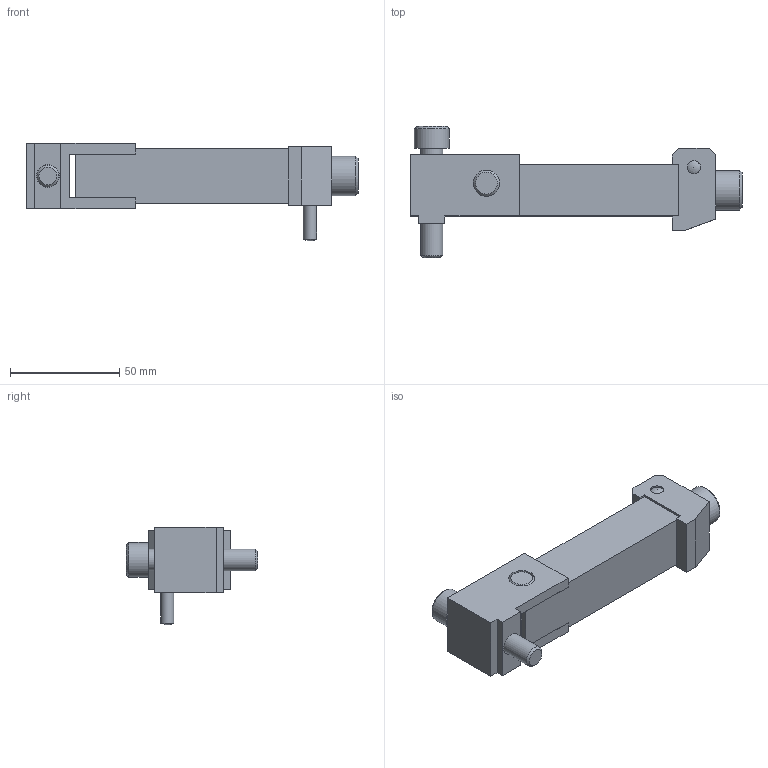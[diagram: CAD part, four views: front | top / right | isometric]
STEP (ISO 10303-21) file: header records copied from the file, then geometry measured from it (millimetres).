
FILE_DESCRIPTION( ( 'STEP AP214' ), '1' );
FILE_NAME( 'p:/temp/worker_207/temp/exporttempdir_3128_297_o9He0/format_0/ZH901.stp', '2021-02-09T19:27:21', ( 'License CC BY-ND 4.0' ), ( 'CADENAS' ), ' ', 'PARTsolutions', ' ' );
FILE_SCHEMA( ( 'AUTOMOTIVE_DESIGN { 1 0 10303 214 1 1 1 1 }' ) );
Length unit declared in the file: millimetre
Products named in the file (9): ZH901; _ZH90/1_head; _ZH90/1_screw1; _ZH90/1_hand; _ZH90/1_screw2; _ZH90/1_he; _ZH90/1_screw3; _ZH90/1_stift1; _ZH90/1_stift2
Assembly tree (8 placements, depth 2):
  ZH901
    _ZH90/1_head
    _ZH90/1_screw1
    _ZH90/1_hand
    _ZH90/1_screw2
    _ZH90/1_he
    _ZH90/1_screw3
    _ZH90/1_stift1
    _ZH90/1_stift2
Bounding box: 152 x 60 x 44.7 mm (x, y, z)
Volume: 102972.8 mm3; surface area: 34925 mm2
Topology: 8 solids, 8 shells, 96 faces, 223 edges, 146 vertices
Faces by surface type: plane 68, cylinder 15, cone 11, sphere 2
Full cylindrical faces by diameter (mm): 4.134 x1, 5 x1, 6 x2, 10 x1, 10.106 x1, 10.5 x1, 12 x5, 13 x1, 16 x1, 18 x1
Entity records: 3497 total; most frequent: CARTESIAN_POINT 484, DIRECTION 435, ORIENTED_EDGE 374, EDGE_CURVE 187, LINE 147, VECTOR 147, AXIS2_PLACEMENT_3D 144, EDGE_LOOP 141
